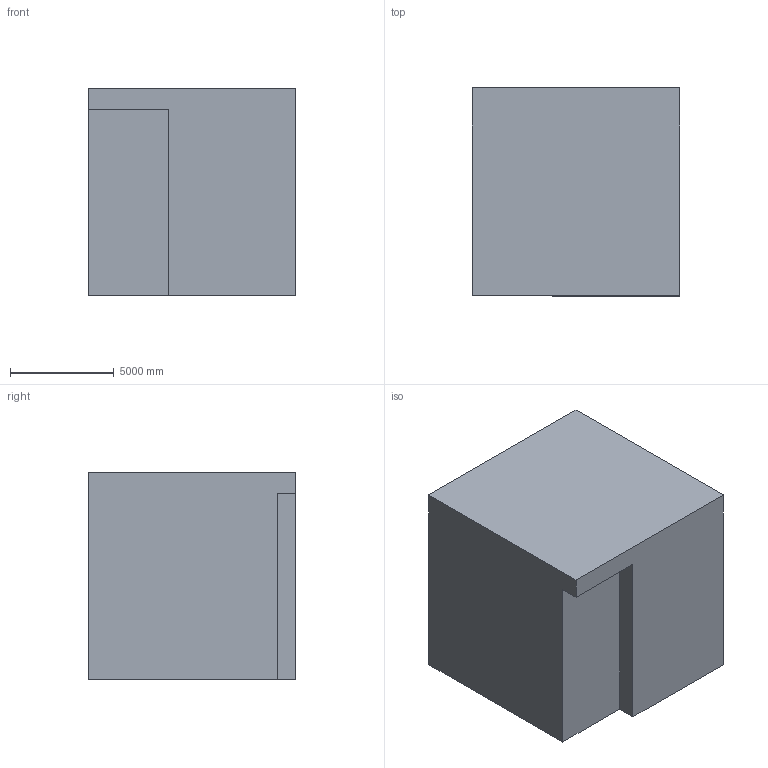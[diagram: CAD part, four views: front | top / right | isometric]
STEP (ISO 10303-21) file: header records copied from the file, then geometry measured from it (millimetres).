
FILE_DESCRIPTION (( 'STEP AP203' ), '1' );
FILE_NAME ('10.STEP', '2022-09-01T11:35:42', ( 'user' ), ( '' ), 'SwSTEP 2.0', 'SolidWorks 2021', '' );
FILE_SCHEMA (( 'CONFIG_CONTROL_DESIGN' ));
Length unit declared in the file: centimetre
Products named in the file (1): 10
Bounding box: 10000 x 10000 x 10000 mm (x, y, z)
Volume: 911430346118.6 mm3; surface area: 581357959.7 mm2
Topology: 1 solids, 1 shells, 11 faces, 27 edges, 18 vertices
Faces by surface type: plane 11
Entity records: 398 total; most frequent: CARTESIAN_POINT 57, ORIENTED_EDGE 54, DIRECTION 51, EDGE_CURVE 27, VECTOR 27, LINE 27, VERTEX_POINT 18, AXIS2_PLACEMENT_3D 12
